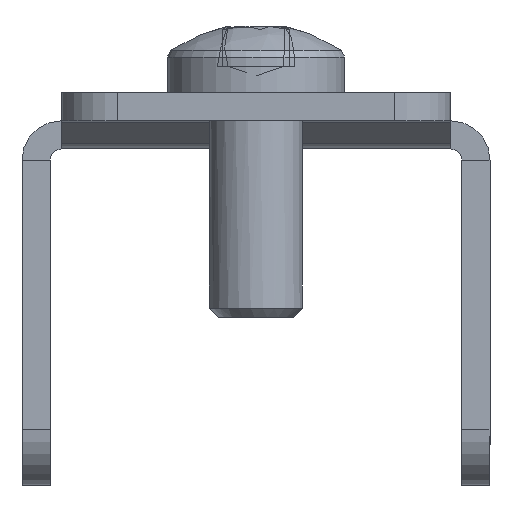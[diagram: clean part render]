
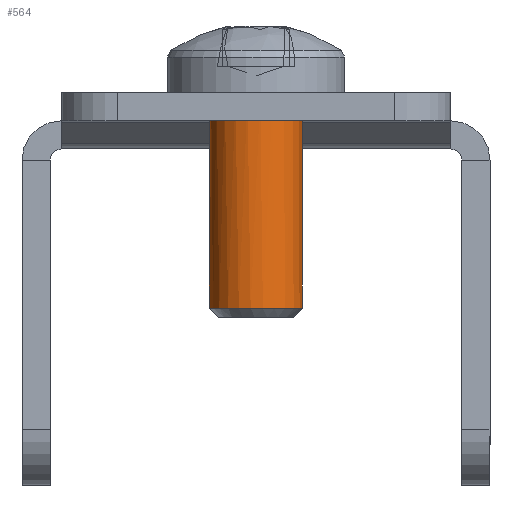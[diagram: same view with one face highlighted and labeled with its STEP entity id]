
A CAD part, front view. The second image highlights one B-rep face of the part: STEP entity #564.
In plain terms, the highlighted cylindrical face has radius 2.5 mm (diameter 5 mm), a full revolution.
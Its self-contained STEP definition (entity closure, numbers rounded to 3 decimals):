
#223 = CARTESIAN_POINT ( 'NONE',  ( 15.2, 0., 0. ) ) ;
#346 = FACE_OUTER_BOUND ( 'NONE', #1318, .T. ) ;
#408 = EDGE_LOOP ( 'NONE', ( #2528 ) ) ;
#487 = DIRECTION ( 'NONE',  ( 0., 0., 1. ) ) ;
#564 = ADVANCED_FACE ( 'NONE', ( #346, #4766 ), #5519, .T. ) ;
#819 = CARTESIAN_POINT ( 'NONE',  ( 3.9, 0., 0. ) ) ;
#1128 = VERTEX_POINT ( 'NONE', #2046 ) ;
#1318 = EDGE_LOOP ( 'NONE', ( #4251 ) ) ;
#1771 = DIRECTION ( 'NONE',  ( 1., 0., 0. ) ) ;
#1782 = CIRCLE ( 'NONE', #4985, 2.5 ) ;
#2046 = CARTESIAN_POINT ( 'NONE',  ( 3.9, 0., 2.5 ) ) ;
#2088 = EDGE_CURVE ( 'NONE', #1128, #1128, #1782, .T. ) ;
#2192 = CARTESIAN_POINT ( 'NONE',  ( -25.4, 0., 0. ) ) ;
#2528 = ORIENTED_EDGE ( 'NONE', *, *, #2088, .T. ) ;
#2972 = EDGE_CURVE ( 'NONE', #4704, #4704, #4738, .T. ) ;
#3236 = DIRECTION ( 'NONE',  ( -1., 0., 0. ) ) ;
#3360 = CARTESIAN_POINT ( 'NONE',  ( 15.2, 0., -2.5 ) ) ;
#3843 = DIRECTION ( 'NONE',  ( 0., 0., 1. ) ) ;
#3897 = DIRECTION ( 'NONE',  ( -1., 0., 0. ) ) ;
#4251 = ORIENTED_EDGE ( 'NONE', *, *, #2972, .T. ) ;
#4638 = AXIS2_PLACEMENT_3D ( 'NONE', #223, #3236, #5326 ) ;
#4704 = VERTEX_POINT ( 'NONE', #3360 ) ;
#4738 = CIRCLE ( 'NONE', #4638, 2.5 ) ;
#4766 = FACE_OUTER_BOUND ( 'NONE', #408, .T. ) ;
#4985 = AXIS2_PLACEMENT_3D ( 'NONE', #819, #1771, #3843 ) ;
#5326 = DIRECTION ( 'NONE',  ( 0., 0., -1. ) ) ;
#5327 = AXIS2_PLACEMENT_3D ( 'NONE', #2192, #3897, #487 ) ;
#5519 = CYLINDRICAL_SURFACE ( 'NONE', #5327, 2.5 ) ;
